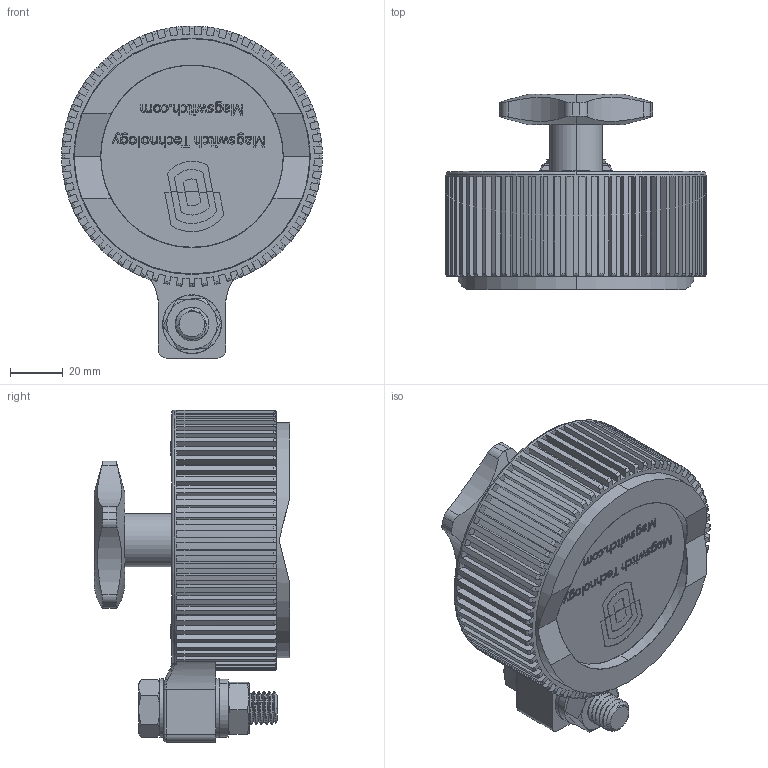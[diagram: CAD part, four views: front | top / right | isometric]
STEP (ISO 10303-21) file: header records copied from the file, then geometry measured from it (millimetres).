
FILE_DESCRIPTION (( 'STEP AP203' ), '1' );
FILE_NAME ('8100552_CFM.STEP', '2024-08-26T17:31:58', ( '' ), ( '' ), 'SwSTEP 2.0', 'SolidWorks 2022', '' );
FILE_SCHEMA (( 'CONFIG_CONTROL_DESIGN' ));
Products named in the file (1): 8100552_CFM
Bounding box: 98.6 x 73.9 x 125.6 mm (x, y, z)
Volume: 336983.6 mm3; surface area: 108016.2 mm2
Topology: 18 solids, 18 shells, 2341 faces, 6374 edges, 4162 vertices
Faces by surface type: cylinder 959, plane 775, bspline 339, cone 179, torus 89
Entity records: 109376 total; most frequent: CARTESIAN_POINT 56731, ORIENTED_EDGE 12716, DIRECTION 8814, EDGE_CURVE 6358, VERTEX_POINT 4162, LINE 3042, VECTOR 3042, AXIS2_PLACEMENT_3D 2886
